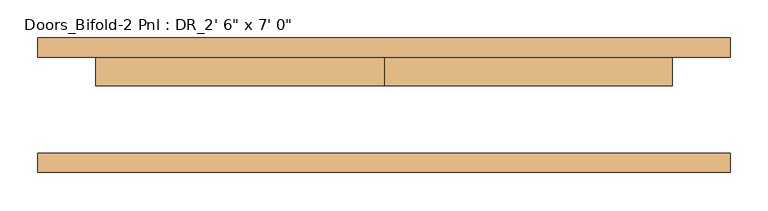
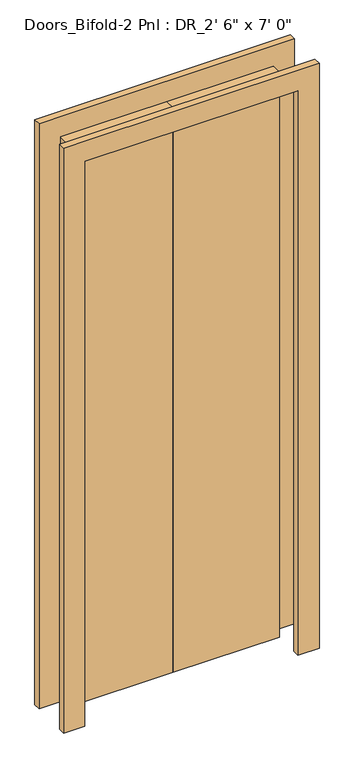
"""IFC4 building model written with IfcOpenShell, lengths in millimetres: door geometry."""

from ifc_helpers import new_model, si_unit, frame, origin, origin_with_axes, place, context, project, spatial, polyline, outline, extrude, source, transform, mapped, element, save


def door_65adfeb2(model_context):
    return source(origin(), model_context, "Body", "SweptSolid", [
        extrude(outline(polyline([(0.0, 25.4), (-381.0, 25.4), (-381.0, 63.5), (0.0, 63.5), (0.0, 25.4)])), origin_with_axes(), (0.0, 0.0, 1.0), 2133.6),
        extrude(outline(polyline([(2209.8, -457.2), (0.0, -457.2), (0.0, -381.0), (2133.6, -381.0), (2133.6, 381.0), (0.0, 381.0), (0.0, 457.2), (2209.8, 457.2), (2209.8, -457.2)])), frame((0.0, 63.5, 0.0), z_axis=(0.0, 1.0, 0.0), x_axis=(0.0, 0.0, 1.0)), (0.0, 0.0, 1.0), 25.4),
        extrude(outline(polyline([(2209.8, 457.2), (2209.8, -457.2), (0.0, -457.2), (0.0, -381.0), (2133.6, -381.0), (2133.6, 381.0), (0.0, 381.0), (0.0, 457.2), (2209.8, 457.2)])), frame((0.0, -88.9, 0.0), z_axis=(0.0, 1.0, 0.0), x_axis=(0.0, 0.0, 1.0)), (0.0, 0.0, 1.0), 25.4),
        extrude(outline(polyline([(381.0, 25.4), (0.0, 25.4), (0.0, 63.5), (381.0, 63.5), (381.0, 25.4)])), origin_with_axes(), (0.0, 0.0, 1.0), 2133.6),
    ])


if __name__ == "__main__":
    model = new_model("IFC4")
    model_context = context("Model", 3, world=origin())
    ifc_project = project(units=[si_unit("LENGTHUNIT", "METRE", prefix="MILLI")], contexts=[model_context])
    site = spatial("IfcSite", under=ifc_project)
    building = spatial("IfcBuilding", under=site)
    placement = place(None, origin())
    door_shape = door_65adfeb2(model_context)
    element("IfcDoor", 1, ObjectType="Doors_Bifold-2 Pnl : DR_2' 6\" x 7' 0\"", at=placement, inside=building, context=model_context, shape_type="MappedRepresentation", body=[
        mapped(door_shape, transform((0.0, 0.0, 0.0), x_axis=(1.0, 0.0, 0.0), y_axis=(0.0, 1.0, 0.0), z_axis=(0.0, 0.0, 1.0))),
    ])
    save(model, "model.ifc")
